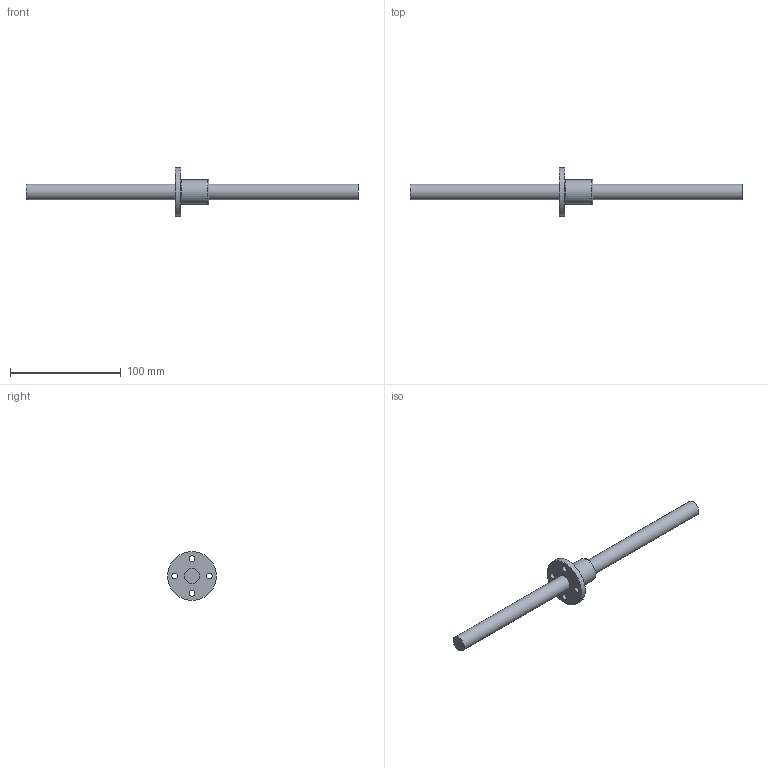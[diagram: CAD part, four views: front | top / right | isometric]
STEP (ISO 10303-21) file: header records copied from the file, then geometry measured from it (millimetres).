
FILE_DESCRIPTION((''),'2;1');
FILE_NAME('D:\製品 (図面)\カタログ用3D\ネジ関連\STEP形式\TMF\TMF14.stp','2010-06-02T14:58:13',('Tsuchiya'),(''),'Autodesk Inventor 10','Autodesk Inventor 10','');
FILE_SCHEMA(('AUTOMOTIVE_DESIGN { 1 0 10303 214 1 1 1 1 }'));
Length unit declared in the file: millimetre
Products named in the file (3): TMF14; TMF141; TMF142
Assembly tree (2 placements, depth 2):
  TMF14
    TMF141
    TMF142
Bounding box: 300 x 44 x 44 mm (x, y, z)
Volume: 58200.4 mm3; surface area: 20085.5 mm2
Topology: 2 solids, 2 shells, 15 faces, 32 edges, 22 vertices
Faces by surface type: cylinder 8, plane 5, torus 1, bspline 1
Full cylindrical faces by diameter (mm): 5.4 x4, 14 x2, 22 x1, 44 x1
Entity records: 470 total; most frequent: CARTESIAN_POINT 100, DIRECTION 74, AXIS2_PLACEMENT_3D 37, ORIENTED_EDGE 36, EDGE_LOOP 36, FACE_BOUND 21, VERTEX_POINT 18, CIRCLE 18
